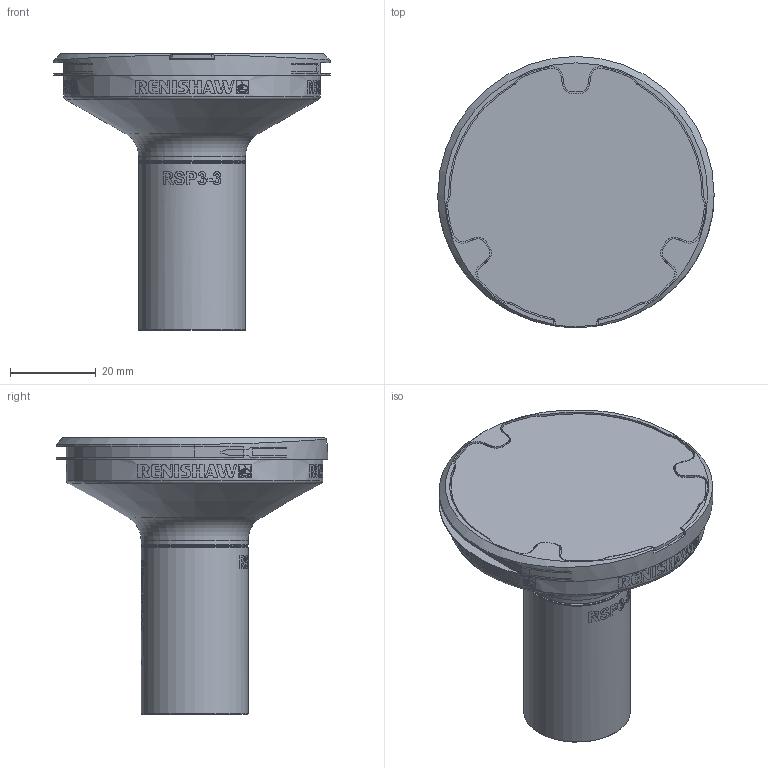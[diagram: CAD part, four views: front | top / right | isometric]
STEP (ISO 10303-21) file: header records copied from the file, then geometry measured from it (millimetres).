
FILE_DESCRIPTION(/* description */ (''),/* implementation_level */ '2;1');
FILE_NAME(/* name */ 'LA_3061_1503_D.stp',/* time_stamp */ '2014-02-06T13:13:37+00:00',/* author */ (''),/* organization */ (''),/* preprocessor_version */ 'ST-DEVELOPER v11',/* originating_system */ 'SIEMENS PLM Software NX 7.5',/* authorisation */ '');
FILE_SCHEMA (('AUTOMOTIVE_DESIGN { 1 0 10303 214 1 1 1 1 }'));
Length unit declared in the file: millimetre
Products named in the file (1): sj10D26Fkfuc
Bounding box: 64.6 x 63.39 x 64.63 mm (x, y, z)
Volume: 66560.6 mm3; surface area: 13115.1 mm2
Topology: 1 solids, 1 shells, 287 faces, 1361 edges, 1164 vertices
Faces by surface type: cylinder 242, plane 33, cone 5, extrusion 4, torus 3
Full cylindrical faces by diameter (mm): 24.1 x1, 24.2 x1, 25 x2, 60 x1
Entity records: 18231 total; most frequent: CARTESIAN_POINT 6313, ORIENTED_EDGE 2646, DIRECTION 1333, EDGE_CURVE 1323, VERTEX_POINT 1145, B_SPLINE_CURVE_WITH_KNOTS 821, AXIS2_PLACEMENT_3D 553, EDGE_LOOP 390
